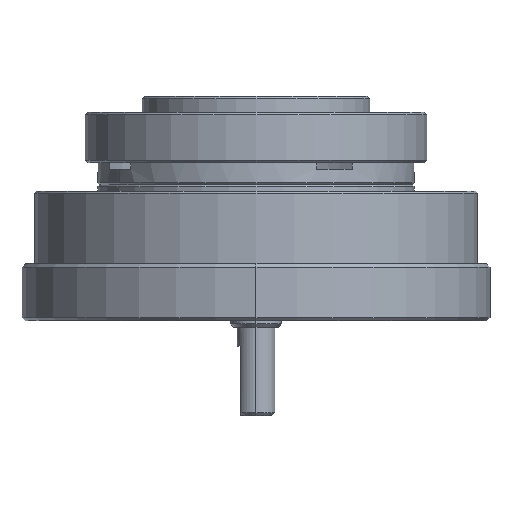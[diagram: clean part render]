
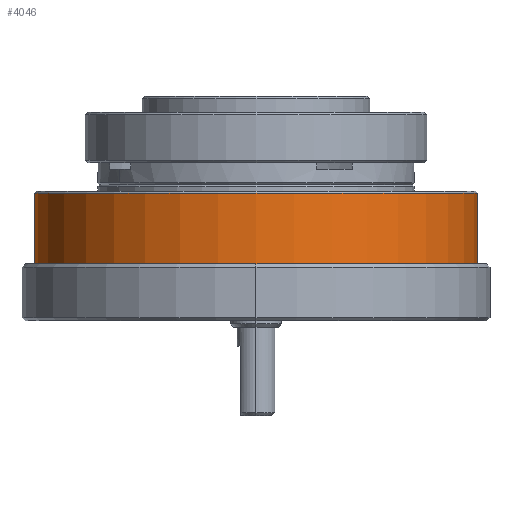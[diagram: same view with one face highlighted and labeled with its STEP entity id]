
A CAD part, front view. The second image highlights one B-rep face of the part: STEP entity #4046.
In plain terms, the highlighted cylindrical face has radius 35 mm (diameter 70 mm), a partial arc.
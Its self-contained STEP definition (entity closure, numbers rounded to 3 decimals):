
#758 = AXIS2_PLACEMENT_3D ( 'NONE', #7355, #7381, #7397 ) ;
#949 = DIRECTION ( 'NONE',  ( 0., 0., -1. ) ) ;
#995 = EDGE_CURVE ( 'NONE', #3260, #5502, #5512, .T. ) ;
#1001 = CARTESIAN_POINT ( 'NONE',  ( 30.4, -0.3, 62.75 ) ) ;
#1335 = EDGE_CURVE ( 'NONE', #3438, #5502, #5307, .T. ) ;
#1647 = ORIENTED_EDGE ( 'NONE', *, *, #5081, .T. ) ;
#1655 = ORIENTED_EDGE ( 'NONE', *, *, #3466, .T. ) ;
#1747 = ORIENTED_EDGE ( 'NONE', *, *, #995, .F. ) ;
#1974 = EDGE_LOOP ( 'NONE', ( #1747, #1655, #1647, #5703 ) ) ;
#2452 = CARTESIAN_POINT ( 'NONE',  ( -4.6, -0.3, 76.55 ) ) ;
#2753 = CARTESIAN_POINT ( 'NONE',  ( 30.4, -0.3, 76.25 ) ) ;
#3260 = VERTEX_POINT ( 'NONE', #2753 ) ;
#3438 = VERTEX_POINT ( 'NONE', #6546 ) ;
#3466 = EDGE_CURVE ( 'NONE', #3260, #6611, #4925, .T. ) ;
#3752 = DIRECTION ( 'NONE',  ( 0., 0., -1. ) ) ;
#3776 = CARTESIAN_POINT ( 'NONE',  ( -39.6, -0.3, 76.55 ) ) ;
#4046 = ADVANCED_FACE ( 'NONE', ( #6132 ), #6214, .T. ) ;
#4587 = LINE ( 'NONE', #3776, #5050 ) ;
#4682 = AXIS2_PLACEMENT_3D ( 'NONE', #2452, #949, #4912 ) ;
#4912 = DIRECTION ( 'NONE',  ( -1., 0., 0. ) ) ;
#4925 = CIRCLE ( 'NONE', #758, 35. ) ;
#4957 = VECTOR ( 'NONE', #7180, 1000. ) ;
#5050 = VECTOR ( 'NONE', #3752, 1000. ) ;
#5081 = EDGE_CURVE ( 'NONE', #6611, #3438, #4587, .T. ) ;
#5260 = DIRECTION ( 'NONE',  ( 0., 0., 1. ) ) ;
#5279 = CARTESIAN_POINT ( 'NONE',  ( -4.6, -0.3, 62.75 ) ) ;
#5307 = CIRCLE ( 'NONE', #6566, 35. ) ;
#5365 = DIRECTION ( 'NONE',  ( 1., 0., 0. ) ) ;
#5502 = VERTEX_POINT ( 'NONE', #1001 ) ;
#5512 = LINE ( 'NONE', #6647, #4957 ) ;
#5703 = ORIENTED_EDGE ( 'NONE', *, *, #1335, .T. ) ;
#6132 = FACE_OUTER_BOUND ( 'NONE', #1974, .T. ) ;
#6214 = CYLINDRICAL_SURFACE ( 'NONE', #4682, 35. ) ;
#6546 = CARTESIAN_POINT ( 'NONE',  ( -39.6, -0.3, 62.75 ) ) ;
#6566 = AXIS2_PLACEMENT_3D ( 'NONE', #5279, #5260, #5365 ) ;
#6611 = VERTEX_POINT ( 'NONE', #6657 ) ;
#6647 = CARTESIAN_POINT ( 'NONE',  ( 30.4, -0.3, 76.55 ) ) ;
#6657 = CARTESIAN_POINT ( 'NONE',  ( -39.6, -0.3, 76.25 ) ) ;
#7180 = DIRECTION ( 'NONE',  ( 0., 0., -1. ) ) ;
#7355 = CARTESIAN_POINT ( 'NONE',  ( -4.6, -0.3, 76.25 ) ) ;
#7381 = DIRECTION ( 'NONE',  ( 0., 0., -1. ) ) ;
#7397 = DIRECTION ( 'NONE',  ( 1., 0., 0. ) ) ;
